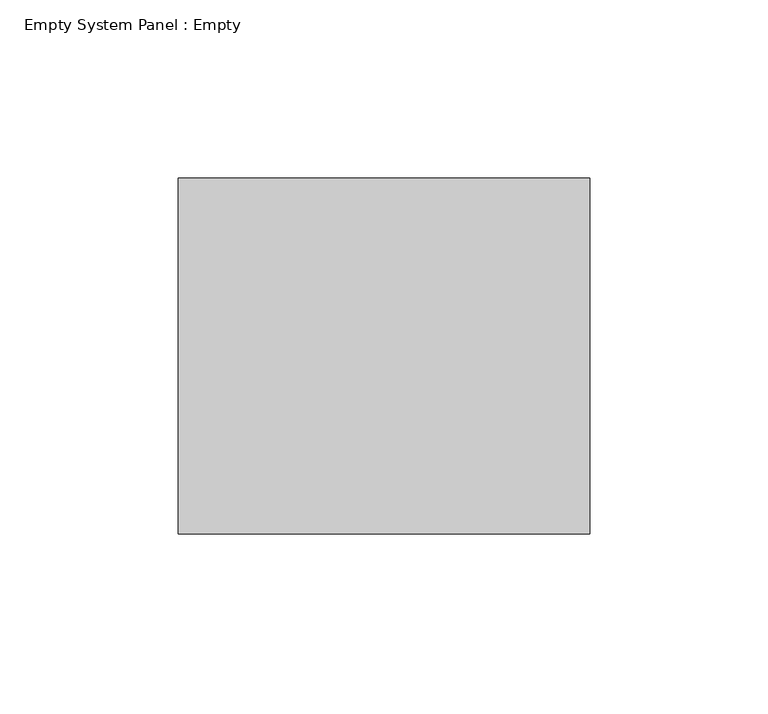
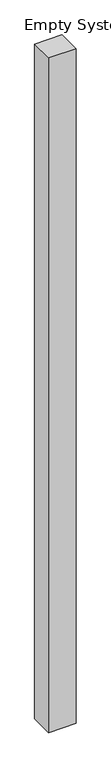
"""IFC4 building model written with IfcOpenShell, lengths in millimetres: plate geometry, Empty System Panel : Empty."""

import ifcopenshell
import ifcopenshell.guid

model = None  # the IFC model being written
_history = None  # IfcOwnerHistory: only IFC2X3 demands one
_inside = {}  # id of a spatial element -> (the spatial element, [elements in it])
_under = {}  # id of a project, library or spatial element -> (it, [spatial elements below it])
_declared = {}  # id of a project -> (the project, [libraries it declares])
_typed = {}  # id of a type object -> (the type object, [elements of that type])
_made_of = {}  # id of a material, layer set ... -> (it, [elements and type objects made of it])


def new_model(schema):
    """Start an empty IFC model of exactly this schema.

    Asked for "IFC4X3", IfcOpenShell would pick the latest addendum, in which some entities
    have other attributes; the version numbers below select the first issue.
    IFC2X3 requires an IfcOwnerHistory on every rooted entity: one is made here for all.
    """
    global model, _history
    if schema == "IFC4X3":
        model = ifcopenshell.file(schema_version=(4, 3, 0, 0))
    else:
        model = ifcopenshell.file(schema=schema)
    _inside.clear()
    _under.clear()
    _declared.clear()
    _typed.clear()
    _made_of.clear()
    _history = None
    if model.schema == "IFC2X3":
        org = make("IfcOrganization", Name="unknown")
        user = make(
            "IfcPersonAndOrganization",
            ThePerson=make("IfcPerson", FamilyName="unknown"),
            TheOrganization=org,
        )
        app = make(
            "IfcApplication",
            ApplicationDeveloper=org,
            Version="unknown",
            ApplicationFullName="unknown",
            ApplicationIdentifier="unknown",
        )
        _history = make(
            "IfcOwnerHistory",
            OwningUser=user,
            OwningApplication=app,
            ChangeAction="ADDED",
            CreationDate=0,
        )
    return model


def make(cls, **values):
    """One entity of the class cls with the attributes given. An attribute that is None is left unset."""
    return model.create_entity(
        cls, **{name: value for name, value in values.items() if value is not None}
    )


def rooted(cls, **values):
    """An entity with a GlobalId (a new one), such as an element, a storey or a relation."""
    return make(cls, GlobalId=ifcopenshell.guid.new(), OwnerHistory=_history, **values)


def si_unit(unit_type, name, prefix=None):
    """IfcSIUnit, for example si_unit("LENGTHUNIT", "METRE", prefix="MILLI")."""
    return make("IfcSIUnit", UnitType=unit_type, Prefix=prefix, Name=name)


def assignment(units):
    """IfcUnitAssignment: the units of a project."""
    return None if units is None else make("IfcUnitAssignment", Units=units)


def point(xyz):
    """IfcCartesianPoint."""
    return None if xyz is None else make("IfcCartesianPoint", Coordinates=xyz)


def direction(xyz):
    """IfcDirection."""
    return None if xyz is None else make("IfcDirection", DirectionRatios=xyz)


def frame(location, z_axis=None, x_axis=None):
    """IfcAxis2Placement3D, a coordinate frame: its origin and axes. An axis left out is left unset."""
    return make(
        "IfcAxis2Placement3D",
        Location=point(location),
        Axis=direction(z_axis),
        RefDirection=direction(x_axis),
    )


def origin():
    """The frame at (0, 0, 0) with its axes left unset."""
    return frame((0.0, 0.0, 0.0))


def origin_with_axes():
    """The frame at (0, 0, 0) with the z axis (0, 0, 1) and the x axis (1, 0, 0) written out."""
    return frame((0.0, 0.0, 0.0), z_axis=(0.0, 0.0, 1.0), x_axis=(1.0, 0.0, 0.0))


def place(relative_to, where):
    """IfcLocalPlacement: puts the frame where relative to a parent placement (None: the world)."""
    return make(
        "IfcLocalPlacement", PlacementRelTo=relative_to, RelativePlacement=where
    )


def context(
    kind, dimensions, precision=None, world=None, true_north=None, identifier=None
):
    """IfcGeometricRepresentationContext, for example the 3D "Model" context."""
    return make(
        "IfcGeometricRepresentationContext",
        ContextIdentifier=identifier,
        ContextType=kind,
        CoordinateSpaceDimension=dimensions,
        Precision=precision,
        WorldCoordinateSystem=world,
        TrueNorth=true_north,
    )


def project(units=None, contexts=None):
    """IfcProject with its units and contexts."""
    return rooted(
        "IfcProject",
        Name="project",
        RepresentationContexts=contexts,
        UnitsInContext=assignment(units),
    )


def spatial(cls, under=None, at=None, **own):
    """A site, building, storey or space (cls), placed at a placement, below another one or the project."""
    s = rooted(cls, ObjectPlacement=at, **own)
    if under is not None:
        _under.setdefault(under.id(), (under, []))[1].append(s)
    return s


def polyline(points):
    """IfcPolyline through the points."""
    return make("IfcPolyline", Points=[point(p) for p in points])


def outline(outer, holes=None, kind="AREA"):
    """IfcArbitraryClosedProfileDef: a profile drawn as a closed curve; with holes, ...WithVoids."""
    if holes is None:
        return make("IfcArbitraryClosedProfileDef", ProfileType=kind, OuterCurve=outer)
    return make(
        "IfcArbitraryProfileDefWithVoids",
        ProfileType=kind,
        OuterCurve=outer,
        InnerCurves=holes,
    )


def extrude(swept, where, along, depth):
    """IfcExtrudedAreaSolid: the profile swept, set in the frame where, extruded along a direction by depth."""
    return make(
        "IfcExtrudedAreaSolid",
        SweptArea=swept,
        Position=where,
        ExtrudedDirection=direction(along),
        Depth=depth,
    )


def shape(context_of_items, identifier, shape_type, items):
    """IfcShapeRepresentation: the items that make up one representation, for example the "Body"."""
    return make(
        "IfcShapeRepresentation",
        ContextOfItems=context_of_items,
        RepresentationIdentifier=identifier,
        RepresentationType=shape_type,
        Items=items,
    )


def source(mapping_origin, context_of_items, identifier, shape_type, items):
    """IfcRepresentationMap: a shape defined once, which mapped items show again and again."""
    return make(
        "IfcRepresentationMap",
        MappingOrigin=mapping_origin,
        MappedRepresentation=shape(context_of_items, identifier, shape_type, items),
    )


def transform(
    local_origin,
    x_axis=None,
    y_axis=None,
    z_axis=None,
    scale=None,
    scale2=None,
    scale3=None,
    uniform=True,
):
    """IfcCartesianTransformationOperator3D, or its non-uniform kind. x_axis, y_axis, z_axis: its Axis1, 2, 3."""
    if uniform:
        return make(
            "IfcCartesianTransformationOperator3D",
            Axis1=direction(x_axis),
            Axis2=direction(y_axis),
            LocalOrigin=point(local_origin),
            Scale=scale,
            Axis3=direction(z_axis),
        )
    return make(
        "IfcCartesianTransformationOperator3DnonUniform",
        Axis1=direction(x_axis),
        Axis2=direction(y_axis),
        LocalOrigin=point(local_origin),
        Scale=scale,
        Axis3=direction(z_axis),
        Scale2=scale2,
        Scale3=scale3,
    )


def mapped(mapping_source, mapping_target):
    """IfcMappedItem: shows the shape of a source again, moved by a transform."""
    return make(
        "IfcMappedItem", MappingSource=mapping_source, MappingTarget=mapping_target
    )


def made_of(thing, what):
    """Note that an element or type object is made of a material, layer set ...; save() writes the relation."""
    if what is not None:
        _made_of.setdefault(what.id(), (what, []))[1].append(thing)
    return thing


def element(
    cls,
    number,
    at=None,
    inside=None,
    cuts=None,
    type_object=None,
    material=None,
    context=None,
    identifier="Body",
    shape_type=None,
    held_by="IfcProductDefinitionShape",
    body=None,
    shapes=None,
    **own,
):
    """One element of the class cls, such as IfcWall. Its Tag is "e" and its number.

    at: its placement. inside: the storey or other place that contains it. cuts: it is an
    opening in that element (IfcRelVoidsElement). A single representation is given by context,
    identifier, shape_type and body (its items); several are given by shapes. held_by: the class
    of the entity that holds the representations. save() writes the other relations.
    """
    e = rooted(cls, Tag="e%d" % number, ObjectPlacement=at, **own)
    if body is not None:
        shapes = [shape(context, identifier, shape_type, body)]
    if shapes is not None:
        e.Representation = make(held_by, Representations=shapes)
    if inside is not None:
        _inside.setdefault(inside.id(), (inside, []))[1].append(e)
    if cuts is not None:
        rooted(
            "IfcRelVoidsElement", RelatingBuildingElement=cuts, RelatedOpeningElement=e
        )
    if type_object is not None:
        _typed.setdefault(type_object.id(), (type_object, []))[1].append(e)
    return made_of(e, material)


def aggregate(whole, parts):
    """IfcRelAggregates: a whole, such as a stair, and the parts it consists of."""
    return rooted("IfcRelAggregates", RelatingObject=whole, RelatedObjects=parts)


def save(model, path):
    """Write the relations noted so far, then the file.

    IfcRelAggregates (storeys below a building ...), IfcRelContainedInSpatialStructure (elements
    in a storey), IfcRelDefinesByType, IfcRelAssociatesMaterial and IfcRelDeclares: one each for
    every whole, place, type object, material and project.
    """
    for whole, parts in _under.values():
        aggregate(whole, parts)
    for where, things in _inside.values():
        rooted(
            "IfcRelContainedInSpatialStructure",
            RelatedElements=things,
            RelatingStructure=where,
        )
    for kind, things in _typed.values():
        rooted("IfcRelDefinesByType", RelatedObjects=things, RelatingType=kind)
    for what, things in _made_of.values():
        rooted("IfcRelAssociatesMaterial", RelatedObjects=things, RelatingMaterial=what)
    for by, libraries in _declared.values():
        rooted("IfcRelDeclares", RelatingContext=by, RelatedDefinitions=libraries)
    model.write(path)


def empty_system_panel_empty_0065accd(model_context):
    return source(origin(), model_context, "Body", "SweptSolid", [
        extrude(outline(polyline([(57.7948759, 50.0), (-57.7948759, 50.0), (-57.7948759, 150.0), (57.7948759, 150.0), (57.7948759, 50.0)])), origin_with_axes(), (0.0, 0.0, 1.0), 3000.0),
    ])


if __name__ == "__main__":
    model = new_model("IFC4")
    model_context = context("Model", 3, world=origin())
    ifc_project = project(units=[si_unit("LENGTHUNIT", "METRE", prefix="MILLI")], contexts=[model_context])
    site = spatial("IfcSite", under=ifc_project)
    building = spatial("IfcBuilding", under=site)
    placement = place(None, origin())
    empty_system_panel_empty_shape = empty_system_panel_empty_0065accd(model_context)
    element("IfcPlate", 1, ObjectType="Empty System Panel : Empty", at=placement, inside=building, context=model_context, shape_type="MappedRepresentation", body=[
        mapped(empty_system_panel_empty_shape, transform((0.0, 0.0, 0.0), x_axis=(1.0, 0.0, 0.0), y_axis=(0.0, 1.0, 0.0), z_axis=(0.0, 0.0, 1.0))),
    ])
    save(model, "model.ifc")
